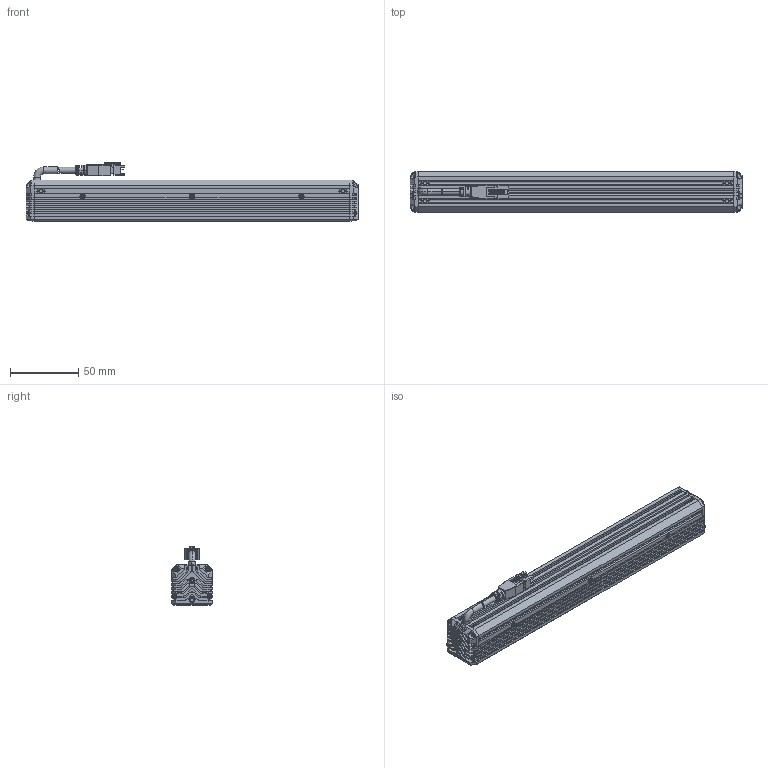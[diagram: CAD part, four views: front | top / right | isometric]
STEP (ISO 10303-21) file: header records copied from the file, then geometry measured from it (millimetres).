
FILE_DESCRIPTION((''),'2;1');
FILE_NAME('MV-LLDS-H-250-30-W-PL_ASM','2024-04-08T12:10:25',('huguozhe'),(''),'CREO PARAMETRIC BY PTC INC, 2020044','CREO PARAMETRIC BY PTC INC, 2020044','');
FILE_SCHEMA(('AUTOMOTIVE_DESIGN { 1 0 10303 214 1 1 1 1 }'));
Length unit declared in the file: millimetre
Products named in the file (15): DE-15-001258; DE-15-001257_ASM; DE-15-000488; DE-15-000487_ASM; DE-12-002271; TIP-M3X4-4_5X5-SO-ET-07061033; DE-12-002271_ASM; DE-12-001572; SC-KM2X6-BNI-GB819; XIANLAN_HEAD; CABLE_HEAD; CABLE_HEAD_ASM_ASM; 190100852; SC-PM2X6B-JMP; MV-LLDS-H-250-30-W-PL_ASM
Assembly tree (32 placements, depth 3):
  MV-LLDS-H-250-30-W-PL_ASM
    DE-15-001257_ASM
      DE-15-001258
    DE-15-000487_ASM
      DE-15-000488
    DE-12-002271_ASM  x2
      DE-12-002271
      TIP-M3X4-4_5X5-SO-ET-07061033
    DE-12-001572
    SC-KM2X6-BNI-GB819  x3
    CABLE_HEAD_ASM_ASM
      XIANLAN_HEAD
      CABLE_HEAD
    190100852  x8
    SC-PM2X6B-JMP  x8
Bounding box: 243 x 30 x 42.65 mm (x, y, z)
Volume: 168383.4 mm3; surface area: 96393.6 mm2
Topology: 30 solids, 64 shells, 2739 faces, 7087 edges, 4467 vertices
Faces by surface type: plane 1314, cylinder 594, bspline 472, cone 302, torus 48, sphere 8, extrusion 1
Entity records: 47628 total; most frequent: CARTESIAN_POINT 11145, ORIENTED_EDGE 6092, DIRECTION 5862, EDGE_CURVE 3076, VERTEX_POINT 1971, VECTOR 1968, LINE 1967, AXIS2_PLACEMENT_3D 1947
